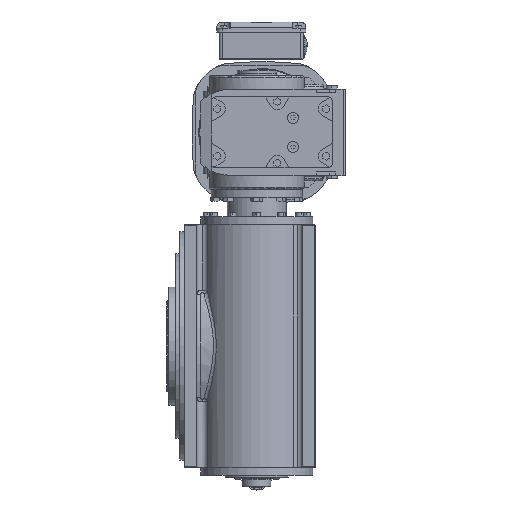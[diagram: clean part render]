
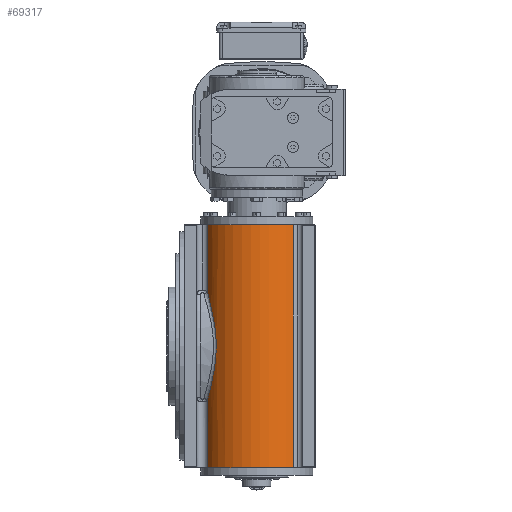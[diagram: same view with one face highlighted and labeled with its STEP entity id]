
A CAD part, left-side view. The second image highlights one B-rep face of the part: STEP entity #69317.
In plain terms, the highlighted cylindrical face has radius 71 mm (diameter 142 mm), a partial arc.
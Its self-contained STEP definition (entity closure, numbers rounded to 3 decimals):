
#323 = CARTESIAN_POINT ( 'NONE',  ( -143.607, 125.753, 11.865 ) ) ;
#663 = DIRECTION ( 'NONE',  ( 0., 0., 1. ) ) ;
#2291 = DIRECTION ( 'NONE',  ( 1., 0., 0. ) ) ;
#2871 = LINE ( 'NONE', #24647, #42552 ) ;
#5762 = CARTESIAN_POINT ( 'NONE',  ( -148.721, 27.577, -154. ) ) ;
#7464 = B_SPLINE_CURVE_WITH_KNOTS ( 'NONE', 3,
 ( #13954, #43362, #36131, #94993, #43856, #65957, #82763, #68351, #52447, #81348, #59683, #9053, #90054, #323, #60632, #66916, #81835, #75096, #90516, #74621, #16781, #38034, #45254, #66420, #24493, #89092, #51984, #15847, #67381, #23548 ),
 .UNSPECIFIED., .F., .F.,
 ( 4, 2, 2, 2, 2, 2, 2, 2, 2, 2, 2, 2, 2, 2, 4 ),
 ( 0., 0.018, 0.023, 0.027, 0.036, 0.055, 0.059, 0.064, 0.073, 0.091, 0.095, 0.1, 0.109, 0.127, 0.145 ),
 .UNSPECIFIED. ) ;
#7506 = EDGE_CURVE ( 'NONE', #55294, #35838, #12107, .T. ) ;
#9053 = CARTESIAN_POINT ( 'NONE',  ( -143.2, 126.132, 16.387 ) ) ;
#12107 = CIRCLE ( 'NONE', #13709, 71. ) ;
#13709 = AXIS2_PLACEMENT_3D ( 'NONE', #30460, #22332, #51731 ) ;
#13954 = CARTESIAN_POINT ( 'NONE',  ( -128.109, 136.808, 68.859 ) ) ;
#14692 = EDGE_CURVE ( 'NONE', #38072, #55294, #2871, .T. ) ;
#15847 = CARTESIAN_POINT ( 'NONE',  ( -132.999, 134.023, -58.167 ) ) ;
#16781 = CARTESIAN_POINT ( 'NONE',  ( -142.631, 126.653, -21.138 ) ) ;
#18352 = DIRECTION ( 'NONE',  ( 0., 0., 1. ) ) ;
#18721 = ORIENTED_EDGE ( 'NONE', *, *, #83441, .T. ) ;
#21144 = CARTESIAN_POINT ( 'NONE',  ( -128.109, 136.808, 154. ) ) ;
#22332 = DIRECTION ( 'NONE',  ( 0., 0., 1. ) ) ;
#23548 = CARTESIAN_POINT ( 'NONE',  ( -128.109, 136.808, -68.859 ) ) ;
#23579 = CARTESIAN_POINT ( 'NONE',  ( -95., 74., -154. ) ) ;
#24260 = CARTESIAN_POINT ( 'NONE',  ( -148.721, 27.577, 154. ) ) ;
#24493 = CARTESIAN_POINT ( 'NONE',  ( -140.598, 128.429, -32.922 ) ) ;
#24647 = CARTESIAN_POINT ( 'NONE',  ( -128.109, 136.808, -500000. ) ) ;
#25644 = DIRECTION ( 'NONE',  ( 0., 0., -1. ) ) ;
#28330 = EDGE_LOOP ( 'NONE', ( #69115, #56198, #75149, #18721, #95097, #31606 ) ) ;
#30460 = CARTESIAN_POINT ( 'NONE',  ( -95., 74., 154. ) ) ;
#31350 = CIRCLE ( 'NONE', #46728, 71. ) ;
#31606 = ORIENTED_EDGE ( 'NONE', *, *, #7506, .F. ) ;
#32805 = FACE_OUTER_BOUND ( 'NONE', #28330, .T. ) ;
#32933 = EDGE_CURVE ( 'NONE', #60679, #35838, #35500, .T. ) ;
#35480 = CARTESIAN_POINT ( 'NONE',  ( -128.109, 136.808, 68.859 ) ) ;
#35500 = LINE ( 'NONE', #73553, #56625 ) ;
#35838 = VERTEX_POINT ( 'NONE', #24260 ) ;
#36131 = CARTESIAN_POINT ( 'NONE',  ( -133.018, 134.012, 58.125 ) ) ;
#37338 = EDGE_CURVE ( 'NONE', #44848, #60860, #69962, .T. ) ;
#38034 = CARTESIAN_POINT ( 'NONE',  ( -142.199, 127.041, -24.119 ) ) ;
#38072 = VERTEX_POINT ( 'NONE', #35480 ) ;
#42552 = VECTOR ( 'NONE', #84777, 1000. ) ;
#43362 = CARTESIAN_POINT ( 'NONE',  ( -130.725, 135.429, 63.555 ) ) ;
#43856 = CARTESIAN_POINT ( 'NONE',  ( -135.977, 131.984, 49.755 ) ) ;
#43952 = AXIS2_PLACEMENT_3D ( 'NONE', #93118, #18352, #56442 ) ;
#44279 = EDGE_CURVE ( 'NONE', #38072, #44848, #7464, .T. ) ;
#44848 = VERTEX_POINT ( 'NONE', #64309 ) ;
#45254 = CARTESIAN_POINT ( 'NONE',  ( -141.962, 127.251, -25.6 ) ) ;
#46728 = AXIS2_PLACEMENT_3D ( 'NONE', #23579, #52956, #2291 ) ;
#49192 = CARTESIAN_POINT ( 'NONE',  ( -128.109, 136.808, 500000. ) ) ;
#51731 = DIRECTION ( 'NONE',  ( 1., 0., 0. ) ) ;
#51984 = CARTESIAN_POINT ( 'NONE',  ( -136.93, 131.346, -47.157 ) ) ;
#52447 = CARTESIAN_POINT ( 'NONE',  ( -139.32, 129.475, 38.415 ) ) ;
#52956 = DIRECTION ( 'NONE',  ( 0., 0., 1. ) ) ;
#55294 = VERTEX_POINT ( 'NONE', #21144 ) ;
#56198 = ORIENTED_EDGE ( 'NONE', *, *, #44279, .T. ) ;
#56442 = DIRECTION ( 'NONE',  ( 1., 0., 0. ) ) ;
#56625 = VECTOR ( 'NONE', #663, 1000. ) ;
#59683 = CARTESIAN_POINT ( 'NONE',  ( -142.345, 126.918, 23.884 ) ) ;
#60632 = CARTESIAN_POINT ( 'NONE',  ( -143.713, 125.653, 10.36 ) ) ;
#60679 = VERTEX_POINT ( 'NONE', #5762 ) ;
#60860 = VERTEX_POINT ( 'NONE', #92794 ) ;
#64309 = CARTESIAN_POINT ( 'NONE',  ( -128.109, 136.808, -68.859 ) ) ;
#65957 = CARTESIAN_POINT ( 'NONE',  ( -136.889, 131.329, 46.942 ) ) ;
#66420 = CARTESIAN_POINT ( 'NONE',  ( -141.192, 127.924, -30.015 ) ) ;
#66916 = CARTESIAN_POINT ( 'NONE',  ( -143.967, 125.413, 5.846 ) ) ;
#67381 = CARTESIAN_POINT ( 'NONE',  ( -130.722, 135.43, -63.561 ) ) ;
#68351 = CARTESIAN_POINT ( 'NONE',  ( -138.57, 130.069, 41.275 ) ) ;
#69115 = ORIENTED_EDGE ( 'NONE', *, *, #14692, .F. ) ;
#69317 = ADVANCED_FACE ( 'NONE', ( #32805 ), #92121, .T. ) ;
#69962 = LINE ( 'NONE', #49192, #91656 ) ;
#73553 = CARTESIAN_POINT ( 'NONE',  ( -148.721, 27.577, -154. ) ) ;
#74621 = CARTESIAN_POINT ( 'NONE',  ( -142.826, 126.476, -19.641 ) ) ;
#75096 = CARTESIAN_POINT ( 'NONE',  ( -144.04, 125.343, -6.17 ) ) ;
#75149 = ORIENTED_EDGE ( 'NONE', *, *, #37338, .T. ) ;
#81348 = CARTESIAN_POINT ( 'NONE',  ( -141.327, 127.831, 29.758 ) ) ;
#81835 = CARTESIAN_POINT ( 'NONE',  ( -144.049, 125.334, 2.839 ) ) ;
#82763 = CARTESIAN_POINT ( 'NONE',  ( -137.325, 131.008, 45.529 ) ) ;
#83441 = EDGE_CURVE ( 'NONE', #60860, #60679, #31350, .T. ) ;
#84777 = DIRECTION ( 'NONE',  ( 0., 0., 1. ) ) ;
#89092 = CARTESIAN_POINT ( 'NONE',  ( -138.584, 130.076, -41.542 ) ) ;
#90054 = CARTESIAN_POINT ( 'NONE',  ( -143.351, 125.993, 14.878 ) ) ;
#90516 = CARTESIAN_POINT ( 'NONE',  ( -143.692, 125.681, -12.164 ) ) ;
#91656 = VECTOR ( 'NONE', #25644, 1000. ) ;
#92121 = CYLINDRICAL_SURFACE ( 'NONE', #43952, 71. ) ;
#92794 = CARTESIAN_POINT ( 'NONE',  ( -128.109, 136.808, -154. ) ) ;
#93118 = CARTESIAN_POINT ( 'NONE',  ( -95., 74., -154. ) ) ;
#94993 = CARTESIAN_POINT ( 'NONE',  ( -135.5, 132.319, 51.157 ) ) ;
#95097 = ORIENTED_EDGE ( 'NONE', *, *, #32933, .T. ) ;
